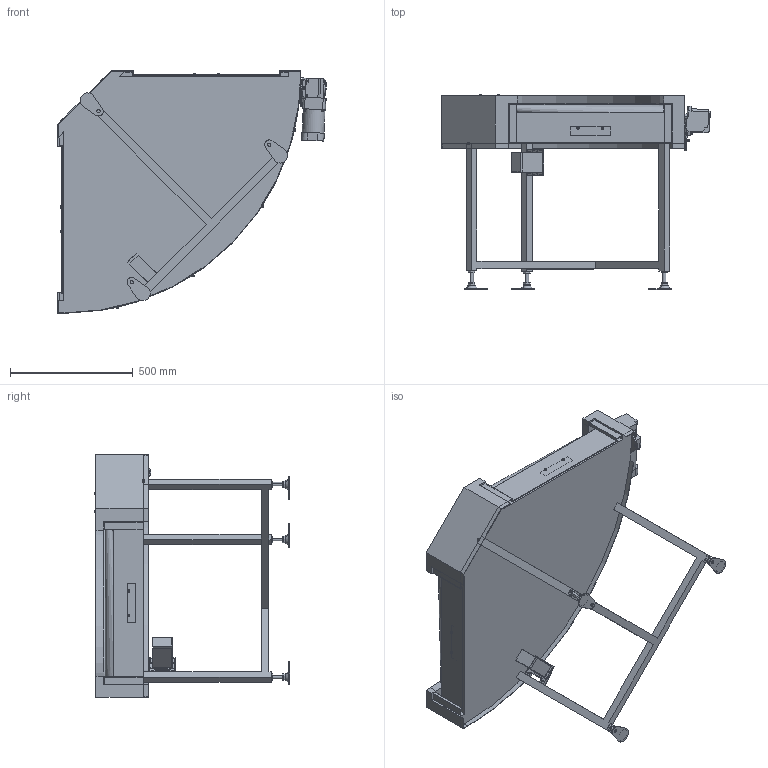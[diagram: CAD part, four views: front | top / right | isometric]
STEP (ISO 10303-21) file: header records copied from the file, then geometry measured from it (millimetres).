
FILE_DESCRIPTION (( 'STEP AP214' ), '1' );
FILE_NAME ('MBC2H-HS-309-600-90°-R-IV-60-O.STEP', '2024-01-16T23:47:07', ( '' ), ( '' ), 'SwSTEP 2.0', 'SolidWorks 2017', '' );
FILE_SCHEMA (( 'AUTOMOTIVE_DESIGN' ));
Length unit declared in the file: millimetre
Products named in the file (1): MBC2H-HS-309-600-90°-R-IV-60-O
Bounding box: 1092.31 x 794.6 x 988.1 mm (x, y, z)
Volume: 82940258.7 mm3; surface area: 4773344.6 mm2
Topology: 32 solids, 32 shells, 1039 faces, 2423 edges, 1528 vertices
Faces by surface type: plane 589, cylinder 280, cone 61, torus 54, bspline 45, sphere 10
Entity records: 32812 total; most frequent: CARTESIAN_POINT 8595, DIRECTION 5026, ORIENTED_EDGE 4790, EDGE_CURVE 2395, AXIS2_PLACEMENT_3D 1773, VERTEX_POINT 1528, LINE 1480, VECTOR 1480
